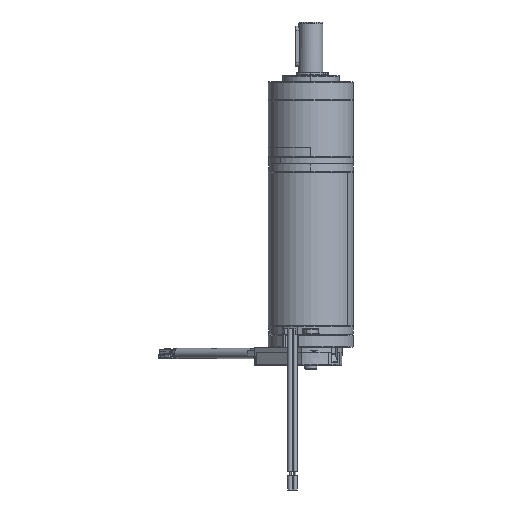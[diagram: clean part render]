
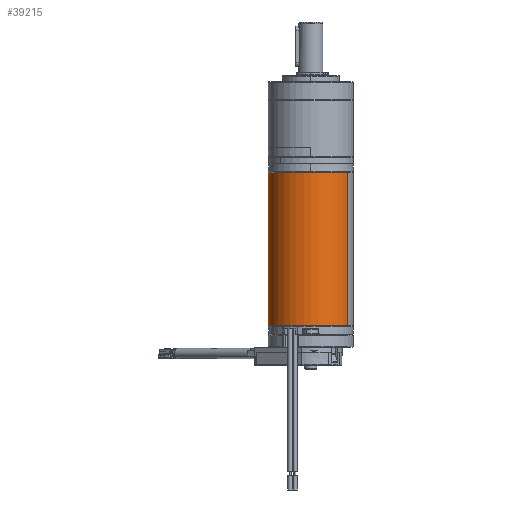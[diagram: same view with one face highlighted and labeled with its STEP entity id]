
A CAD part, left-side view. The second image highlights one B-rep face of the part: STEP entity #39215.
In plain terms, the highlighted cylindrical face has radius 21 mm (diameter 42 mm), a partial arc.
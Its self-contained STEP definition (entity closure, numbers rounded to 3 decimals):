
#5703 = AXIS2_PLACEMENT_3D ( 'NONE', #72991, #126807, #112241 ) ;
#8998 = CARTESIAN_POINT ( 'NONE',  ( 5.131, -8.599, 61.785 ) ) ;
#12783 = EDGE_CURVE ( 'NONE', #39571, #109738, #68925, .T. ) ;
#14170 = CARTESIAN_POINT ( 'NONE',  ( 15.552, 9.632, 7.935 ) ) ;
#18113 = VECTOR ( 'NONE', #125896, 1000. ) ;
#26185 = DIRECTION ( 'NONE',  ( 0., 0., -1. ) ) ;
#29740 = AXIS2_PLACEMENT_3D ( 'NONE', #61873, #77293, #87329 ) ;
#39215 = ADVANCED_FACE ( 'NONE', ( #100115 ), #166614, .T. ) ;
#39571 = VERTEX_POINT ( 'NONE', #115403 ) ;
#52138 = EDGE_CURVE ( 'NONE', #39571, #128378, #95119, .T. ) ;
#61873 = CARTESIAN_POINT ( 'NONE',  ( 5.131, -8.599, 7.935 ) ) ;
#68925 = CIRCLE ( 'NONE', #106765, 21. ) ;
#72991 = CARTESIAN_POINT ( 'NONE',  ( 5.131, -8.599, -13.915 ) ) ;
#77293 = DIRECTION ( 'NONE',  ( 0., 0., -1. ) ) ;
#78870 = DIRECTION ( 'NONE',  ( -0.496, -0.868, 0. ) ) ;
#83936 = CIRCLE ( 'NONE', #5703, 21. ) ;
#87329 = DIRECTION ( 'NONE',  ( 0.496, 0.868, 0. ) ) ;
#89193 = EDGE_CURVE ( 'NONE', #109738, #94307, #138689, .T. ) ;
#93346 = CARTESIAN_POINT ( 'NONE',  ( -5.29, -26.831, 7.935 ) ) ;
#94307 = VERTEX_POINT ( 'NONE', #178270 ) ;
#95119 = LINE ( 'NONE', #93346, #18113 ) ;
#100115 = FACE_OUTER_BOUND ( 'NONE', #119006, .T. ) ;
#106765 = AXIS2_PLACEMENT_3D ( 'NONE', #8998, #26185, #78870 ) ;
#109738 = VERTEX_POINT ( 'NONE', #165257 ) ;
#110353 = EDGE_CURVE ( 'NONE', #94307, #128378, #83936, .T. ) ;
#112241 = DIRECTION ( 'NONE',  ( -0.496, -0.868, 0. ) ) ;
#113402 = CARTESIAN_POINT ( 'NONE',  ( -5.29, -26.831, -13.915 ) ) ;
#115403 = CARTESIAN_POINT ( 'NONE',  ( -5.29, -26.831, 61.785 ) ) ;
#119006 = EDGE_LOOP ( 'NONE', ( #125360, #145685, #177135, #169406 ) ) ;
#125360 = ORIENTED_EDGE ( 'NONE', *, *, #52138, .F. ) ;
#125896 = DIRECTION ( 'NONE',  ( 0., 0., -1. ) ) ;
#126807 = DIRECTION ( 'NONE',  ( 0., 0., 1. ) ) ;
#128378 = VERTEX_POINT ( 'NONE', #113402 ) ;
#138689 = LINE ( 'NONE', #14170, #145173 ) ;
#145173 = VECTOR ( 'NONE', #179633, 1000. ) ;
#145685 = ORIENTED_EDGE ( 'NONE', *, *, #12783, .T. ) ;
#165257 = CARTESIAN_POINT ( 'NONE',  ( 15.552, 9.632, 61.785 ) ) ;
#166614 = CYLINDRICAL_SURFACE ( 'NONE', #29740, 21. ) ;
#169406 = ORIENTED_EDGE ( 'NONE', *, *, #110353, .T. ) ;
#177135 = ORIENTED_EDGE ( 'NONE', *, *, #89193, .T. ) ;
#178270 = CARTESIAN_POINT ( 'NONE',  ( 15.552, 9.632, -13.915 ) ) ;
#179633 = DIRECTION ( 'NONE',  ( 0., 0., -1. ) ) ;
